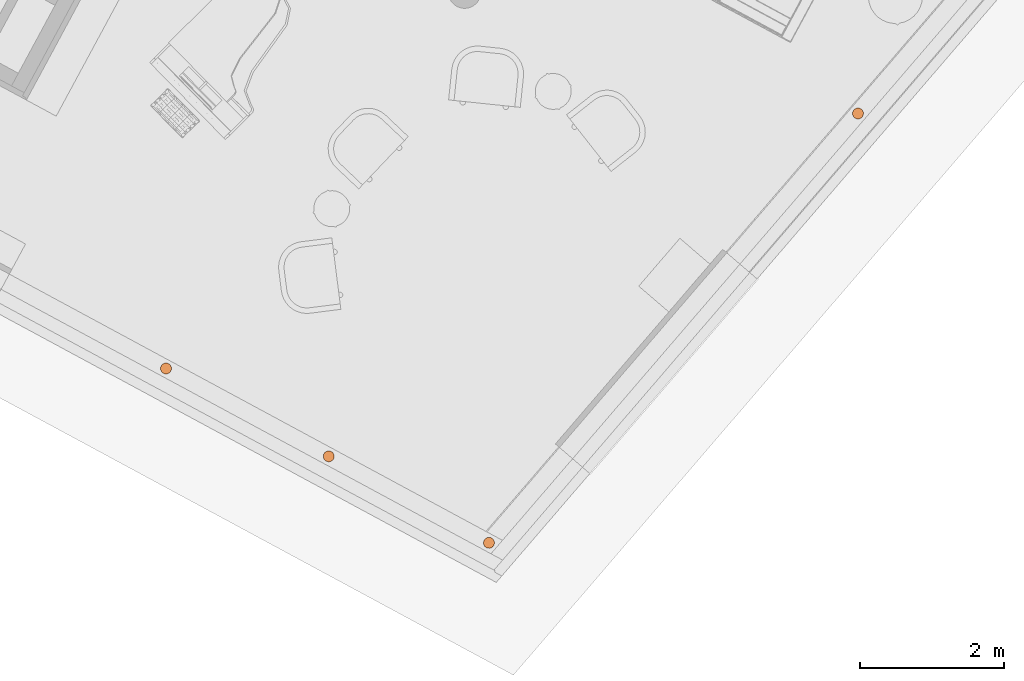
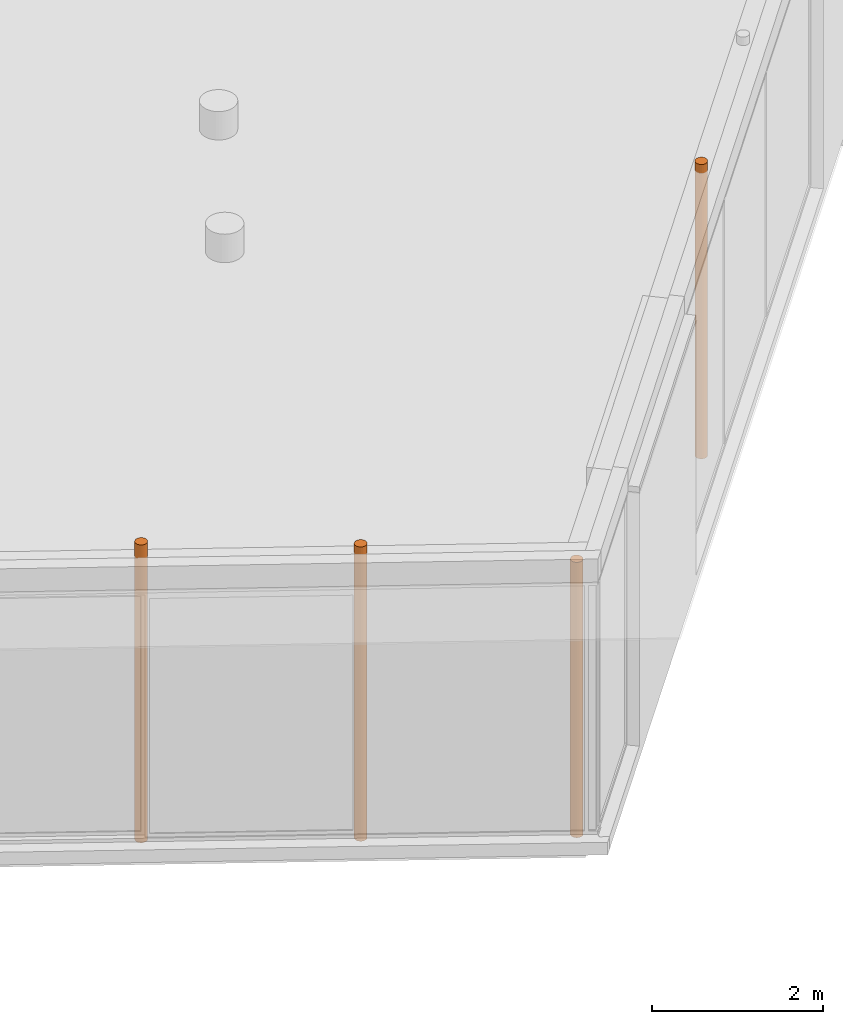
# One storey, part 46 of 52: 4 proxies.
"""IFC2X3 building model written with IfcOpenShell, lengths in metres."""

from ifc_helpers import new_model, entity, si_unit, converted_unit, derived_unit, money_unit, direction, frame, origin_with_axes, place, context, subcontext, project, spatial, faceted_brep, material, type_object, element, save


model = new_model("IFC2X3")

# Units and contexts
model_context = context("Model", 3, precision=1e-05, world=origin_with_axes(), true_north=direction((0.0, 1.0)))
body_context = subcontext(model_context, "Body", "Model", "MODEL_VIEW")
ifc_project = project(units=[si_unit("LENGTHUNIT", "METRE"), si_unit("AREAUNIT", "SQUARE_METRE"), si_unit("VOLUMEUNIT", "CUBIC_METRE"), converted_unit("PLANEANGLEUNIT", "DEGREE", entity("IfcPlaneAngleMeasure", 0.0174532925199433), si_unit("PLANEANGLEUNIT", "RADIAN"), dimensions=[0, 0, 0, 0, 0, 0, 0]), money_unit("EUR"), converted_unit("TIMEUNIT", "Year", entity("IfcTimeMeasure", 31556926.0), si_unit("TIMEUNIT", "SECOND"), dimensions=[0, 0, 1, 0, 0, 0, 0]), si_unit("MASSUNIT", "GRAM", prefix="KILO"), si_unit("THERMODYNAMICTEMPERATUREUNIT", "DEGREE_CELSIUS"), si_unit("LUMINOUSINTENSITYUNIT", "LUMEN"), si_unit("ENERGYUNIT", "JOULE", prefix="MEGA"), derived_unit("THERMALCONDUCTANCEUNIT", [(si_unit("POWERUNIT", "WATT"), 1), (si_unit("LENGTHUNIT", "METRE"), -1), (si_unit("THERMODYNAMICTEMPERATUREUNIT", "KELVIN"), -1)]), derived_unit("SPECIFICHEATCAPACITYUNIT", [(si_unit("ENERGYUNIT", "JOULE"), 1), (si_unit("MASSUNIT", "GRAM", prefix="KILO"), -1), (si_unit("THERMODYNAMICTEMPERATUREUNIT", "KELVIN"), -1)]), derived_unit("MASSDENSITYUNIT", [(si_unit("MASSUNIT", "GRAM", prefix="KILO"), 1), (si_unit("VOLUMEUNIT", "CUBIC_METRE"), -1)])], contexts=[model_context])

# Site, building, storey
site_placement = place(None, frame((-3.949935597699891, 1.740105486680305, 0.0), z_axis=(0.0, 0.0, 1.0), x_axis=(0.8799804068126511, -0.475009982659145, 0.0)))
site = spatial("IfcSite", under=ifc_project, at=site_placement, Name="Gelände", CompositionType="ELEMENT")
building_placement = place(site_placement, origin_with_axes())
building = spatial("IfcBuilding", under=site, at=building_placement, Name="Gebäude", CompositionType="ELEMENT")
storey_placement = place(building_placement, origin_with_axes())
storey = spatial("IfcBuildingStorey", under=building, at=storey_placement, Name="Erdgeschoss", CompositionType="ELEMENT", Elevation=0.0)

# Proxies
ifc_material_1 = material(Name="Metall, Edelstahl")
building_element_proxy_type_1 = type_object("IfcBuildingElementProxyType", Name="Metall, Edelstahl D152", PredefinedType="NOTDEFINED")
proxy_1_placement = place(storey_placement, frame((28.44198971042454, 8.022063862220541, -0.1800000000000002), z_axis=(0.0, 0.0, 1.0), x_axis=(0.9769696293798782, -0.2133784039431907, 0.0)))
element("IfcBuildingElementProxy", 1, at=proxy_1_placement, inside=storey, type_object=building_element_proxy_type_1, material=ifc_material_1, Name="Stütze-003", context=body_context, shape_type="Brep", body=[
    faceted_brep([(-0.07600000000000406, 0.0, 4.200000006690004), (-0.07600000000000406, 0.0, 0.0), (-0.07228029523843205, -0.02348529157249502, 0.0), (-0.07228029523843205, -0.02348529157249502, 4.200000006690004), (-0.0722802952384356, 0.02348529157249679, 4.200000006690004), (-0.0722802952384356, 0.02348529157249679, 0.0), (-0.06148529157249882, 0.04467167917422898, 0.0), (-0.04467167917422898, 0.06148529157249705, 0.0), (-0.02348529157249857, 0.07228029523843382, 0.0), (0.0, 0.07600000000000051, 0.0), (0.02348529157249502, 0.07228029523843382, 0.0), (0.04467167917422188, 0.06148529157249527, 0.0), (0.06148529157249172, 0.04467167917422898, 0.0), (0.0722802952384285, 0.02348529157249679, 0.0), (0.07600000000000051, 0.0, 0.0), (0.0722802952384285, -0.02348529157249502, 0.0), (0.06148529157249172, -0.04467167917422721, 0.0), (0.04467167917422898, -0.06148529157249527, 0.0), (0.02348529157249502, -0.07228029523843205, 0.0), (0.0, -0.07600000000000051, 0.0), (-0.02348529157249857, -0.07228029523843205, 0.0), (-0.04467167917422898, -0.06148529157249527, 0.0), (-0.06148529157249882, -0.04467167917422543, 0.0), (-0.06148529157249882, -0.04467167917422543, 4.200000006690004), (-0.04467167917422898, -0.06148529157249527, 4.200000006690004), (-0.02348529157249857, -0.07228029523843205, 4.200000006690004), (0.0, -0.07600000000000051, 4.200000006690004), (0.02348529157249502, -0.07228029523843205, 4.200000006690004), (0.04467167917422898, -0.06148529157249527, 4.200000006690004), (0.06148529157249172, -0.04467167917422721, 4.200000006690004), (0.0722802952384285, -0.02348529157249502, 4.200000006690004), (0.07600000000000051, 0.0, 4.200000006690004), (0.0722802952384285, 0.02348529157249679, 4.200000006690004), (0.06148529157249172, 0.04467167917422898, 4.200000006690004), (0.04467167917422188, 0.06148529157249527, 4.200000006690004), (0.02348529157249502, 0.07228029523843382, 4.200000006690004), (0.0, 0.07600000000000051, 4.200000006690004), (-0.02348529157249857, 0.07228029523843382, 4.200000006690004), (-0.04467167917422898, 0.06148529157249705, 4.200000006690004), (-0.06148529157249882, 0.04467167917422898, 4.200000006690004)], [[[0, 1, 2, 3]], [[4, 5, 1, 0]], [[2, 1, 5, 6, 7, 8, 9, 10, 11, 12, 13, 14, 15, 16, 17, 18, 19, 20, 21, 22]], [[3, 2, 22, 23]], [[4, 0, 3, 23, 24, 25, 26, 27, 28, 29, 30, 31, 32, 33, 34, 35, 36, 37, 38, 39]], [[39, 6, 5, 4]], [[38, 7, 6, 39]], [[37, 8, 7, 38]], [[36, 9, 8, 37]], [[35, 10, 9, 36]], [[34, 11, 10, 35]], [[33, 12, 11, 34]], [[32, 13, 12, 33]], [[31, 14, 13, 32]], [[30, 15, 14, 31]], [[29, 16, 15, 30]], [[28, 17, 16, 29]], [[27, 18, 17, 28]], [[26, 19, 18, 27]], [[25, 20, 19, 26]], [[24, 21, 20, 25]], [[23, 22, 21, 24]]]),
])
ifc_material_2 = material(Name="Metall, Edelstahl-Stütze")
building_element_proxy_type_2 = type_object("IfcBuildingElementProxyType", Name="Metall, Edelstahl-Stütze D152", PredefinedType="NOTDEFINED")
proxy_2_placement = place(storey_placement, frame((21.67152759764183, 0.3450001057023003, -0.1499999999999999), z_axis=(0.0, 0.0, 1.0), x_axis=(1.0, 0.0, 0.0)))
element("IfcBuildingElementProxy", 2, at=proxy_2_placement, inside=storey, type_object=building_element_proxy_type_2, material=ifc_material_2, Name="Stütze-003", context=body_context, shape_type="Brep", body=[
    faceted_brep([(-0.07600000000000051, 0.0, 4.250000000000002), (-0.07600000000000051, 0.0, 0.0), (-0.07228029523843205, -0.02348529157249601, 0.0), (-0.07228029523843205, -0.02348529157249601, 4.250000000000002), (-0.07228029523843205, 0.02348529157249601, 4.250000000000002), (-0.07228029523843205, 0.02348529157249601, 0.0), (-0.06148529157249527, 0.04467167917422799, 0.0), (-0.04467167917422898, 0.06148529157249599, 0.0), (-0.02348529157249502, 0.07228029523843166, 0.0), (0.0, 0.07600000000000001, 0.0), (0.02348529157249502, 0.07228029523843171, 0.0), (0.04467167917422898, 0.06148529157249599, 0.0), (0.06148529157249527, 0.04467167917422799, 0.0), (0.07228029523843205, 0.02348529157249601, 0.0), (0.07600000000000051, 0.0, 0.0), (0.07228029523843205, -0.02348529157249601, 0.0), (0.06148529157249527, -0.04467167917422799, 0.0), (0.04467167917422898, -0.06148529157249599, 0.0), (0.02348529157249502, -0.07228029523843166, 0.0), (0.0, -0.07600000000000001, 0.0), (-0.02348529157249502, -0.07228029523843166, 0.0), (-0.04467167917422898, -0.06148529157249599, 0.0), (-0.06148529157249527, -0.04467167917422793, 0.0), (-0.06148529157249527, -0.04467167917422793, 4.250000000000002), (-0.04467167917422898, -0.06148529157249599, 4.250000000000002), (-0.02348529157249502, -0.07228029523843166, 4.250000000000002), (0.0, -0.07600000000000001, 4.250000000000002), (0.02348529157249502, -0.07228029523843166, 4.250000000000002), (0.04467167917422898, -0.06148529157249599, 4.250000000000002), (0.06148529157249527, -0.04467167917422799, 4.250000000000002), (0.07228029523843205, -0.02348529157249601, 4.250000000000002), (0.07600000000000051, 0.0, 4.250000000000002), (0.07228029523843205, 0.02348529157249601, 4.250000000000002), (0.06148529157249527, 0.04467167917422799, 4.250000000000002), (0.04467167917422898, 0.06148529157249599, 4.250000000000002), (0.02348529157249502, 0.07228029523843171, 4.250000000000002), (0.0, 0.07600000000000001, 4.250000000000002), (-0.02348529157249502, 0.07228029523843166, 4.250000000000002), (-0.04467167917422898, 0.06148529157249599, 4.250000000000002), (-0.06148529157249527, 0.04467167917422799, 4.250000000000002)], [[[0, 1, 2, 3]], [[4, 5, 1, 0]], [[2, 1, 5, 6, 7, 8, 9, 10, 11, 12, 13, 14, 15, 16, 17, 18, 19, 20, 21, 22]], [[3, 2, 22, 23]], [[4, 0, 3, 23, 24, 25, 26, 27, 28, 29, 30, 31, 32, 33, 34, 35, 36, 37, 38, 39]], [[39, 6, 5, 4]], [[38, 7, 6, 39]], [[37, 8, 7, 38]], [[36, 9, 8, 37]], [[35, 10, 9, 36]], [[34, 11, 10, 35]], [[33, 12, 11, 34]], [[32, 13, 12, 33]], [[31, 14, 13, 32]], [[30, 15, 14, 31]], [[29, 16, 15, 30]], [[28, 17, 16, 29]], [[27, 18, 17, 28]], [[26, 19, 18, 27]], [[25, 20, 19, 26]], [[24, 21, 20, 25]], [[23, 22, 21, 24]]]),
])
proxy_3_placement = place(storey_placement, frame((24.23819426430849, 0.3450001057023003, -0.1800000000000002), z_axis=(0.0, 0.0, 1.0), x_axis=(1.0, 0.0, 0.0)))
element("IfcBuildingElementProxy", 3, at=proxy_3_placement, inside=storey, type_object=building_element_proxy_type_2, material=ifc_material_2, Name="Stütze-003", context=body_context, shape_type="Brep", body=[
    faceted_brep([(-0.07600000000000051, 0.0, 4.199999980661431), (-0.07600000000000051, 0.0, 0.0), (-0.07228029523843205, -0.02348529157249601, 0.0), (-0.07228029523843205, -0.02348529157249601, 4.199999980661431), (-0.07228029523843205, 0.02348529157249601, 4.199999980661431), (-0.07228029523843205, 0.02348529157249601, 0.0), (-0.06148529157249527, 0.04467167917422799, 0.0), (-0.04467167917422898, 0.06148529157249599, 0.0), (-0.02348529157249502, 0.07228029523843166, 0.0), (0.0, 0.07600000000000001, 0.0), (0.02348529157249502, 0.07228029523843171, 0.0), (0.04467167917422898, 0.06148529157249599, 0.0), (0.06148529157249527, 0.04467167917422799, 0.0), (0.07228029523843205, 0.02348529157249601, 0.0), (0.07600000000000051, 0.0, 0.0), (0.07228029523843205, -0.02348529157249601, 0.0), (0.06148529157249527, -0.04467167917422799, 0.0), (0.04467167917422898, -0.06148529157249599, 0.0), (0.02348529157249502, -0.07228029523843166, 0.0), (0.0, -0.07600000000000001, 0.0), (-0.02348529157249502, -0.07228029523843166, 0.0), (-0.04467167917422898, -0.06148529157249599, 0.0), (-0.06148529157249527, -0.04467167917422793, 0.0), (-0.06148529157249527, -0.04467167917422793, 4.199999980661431), (-0.04467167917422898, -0.06148529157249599, 4.199999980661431), (-0.02348529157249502, -0.07228029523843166, 4.199999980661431), (0.0, -0.07600000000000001, 4.199999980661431), (0.02348529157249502, -0.07228029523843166, 4.199999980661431), (0.04467167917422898, -0.06148529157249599, 4.199999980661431), (0.06148529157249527, -0.04467167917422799, 4.199999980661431), (0.07228029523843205, -0.02348529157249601, 4.199999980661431), (0.07600000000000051, 0.0, 4.199999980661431), (0.07228029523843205, 0.02348529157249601, 4.199999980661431), (0.06148529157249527, 0.04467167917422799, 4.199999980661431), (0.04467167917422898, 0.06148529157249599, 4.199999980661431), (0.02348529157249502, 0.07228029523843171, 4.199999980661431), (0.0, 0.07600000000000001, 4.199999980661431), (-0.02348529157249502, 0.07228029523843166, 4.199999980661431), (-0.04467167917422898, 0.06148529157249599, 4.199999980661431), (-0.06148529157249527, 0.04467167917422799, 4.199999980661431)], [[[0, 1, 2, 3]], [[4, 5, 1, 0]], [[2, 1, 5, 6, 7, 8, 9, 10, 11, 12, 13, 14, 15, 16, 17, 18, 19, 20, 21, 22]], [[3, 2, 22, 23]], [[4, 0, 3, 23, 24, 25, 26, 27, 28, 29, 30, 31, 32, 33, 34, 35, 36, 37, 38, 39]], [[39, 6, 5, 4]], [[38, 7, 6, 39]], [[37, 8, 7, 38]], [[36, 9, 8, 37]], [[35, 10, 9, 36]], [[34, 11, 10, 35]], [[33, 12, 11, 34]], [[32, 13, 12, 33]], [[31, 14, 13, 32]], [[30, 15, 14, 31]], [[29, 16, 15, 30]], [[28, 17, 16, 29]], [[27, 18, 17, 28]], [[26, 19, 18, 27]], [[25, 20, 19, 26]], [[24, 21, 20, 25]], [[23, 22, 21, 24]]]),
])
proxy_4_placement = place(storey_placement, frame((26.76525426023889, 0.3450001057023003, -0.1800000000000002), z_axis=(0.0, 0.0, 1.0), x_axis=(1.0, 0.0, 0.0)))
element("IfcBuildingElementProxy", 4, at=proxy_4_placement, inside=storey, type_object=building_element_proxy_type_2, material=ifc_material_2, Name="Stütze-003", context=body_context, shape_type="Brep", body=[
    faceted_brep([(-0.07600000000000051, 0.0, 3.93), (-0.07600000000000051, 0.0, 0.0), (-0.07228029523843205, -0.02348529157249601, 0.0), (-0.07228029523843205, -0.02348529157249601, 3.93), (-0.07228029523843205, 0.02348529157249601, 3.93), (-0.07228029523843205, 0.02348529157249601, 0.0), (-0.06148529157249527, 0.04467167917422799, 0.0), (-0.04467167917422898, 0.06148529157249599, 0.0), (-0.02348529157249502, 0.07228029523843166, 0.0), (0.0, 0.07600000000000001, 0.0), (0.02348529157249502, 0.07228029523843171, 0.0), (0.04467167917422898, 0.06148529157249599, 0.0), (0.06148529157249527, 0.04467167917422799, 0.0), (0.07228029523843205, 0.02348529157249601, 0.0), (0.07600000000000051, 0.0, 0.0), (0.07228029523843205, -0.02348529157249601, 0.0), (0.06148529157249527, -0.04467167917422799, 0.0), (0.04467167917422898, -0.06148529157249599, 0.0), (0.02348529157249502, -0.07228029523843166, 0.0), (0.0, -0.07600000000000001, 0.0), (-0.02348529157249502, -0.07228029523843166, 0.0), (-0.04467167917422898, -0.06148529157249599, 0.0), (-0.06148529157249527, -0.04467167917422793, 0.0), (-0.06148529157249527, -0.04467167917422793, 3.93), (-0.04467167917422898, -0.06148529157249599, 3.93), (-0.02348529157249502, -0.07228029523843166, 3.93), (0.0, -0.07600000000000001, 3.93), (0.02348529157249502, -0.07228029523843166, 3.93), (0.04467167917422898, -0.06148529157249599, 3.93), (0.06148529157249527, -0.04467167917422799, 3.93), (0.07228029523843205, -0.02348529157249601, 3.93), (0.07600000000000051, 0.0, 3.93), (0.07228029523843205, 0.02348529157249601, 3.93), (0.06148529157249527, 0.04467167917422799, 3.93), (0.04467167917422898, 0.06148529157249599, 3.93), (0.02348529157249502, 0.07228029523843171, 3.93), (0.0, 0.07600000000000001, 3.93), (-0.02348529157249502, 0.07228029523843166, 3.93), (-0.04467167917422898, 0.06148529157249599, 3.93), (-0.06148529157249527, 0.04467167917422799, 3.93)], [[[0, 1, 2, 3]], [[4, 5, 1, 0]], [[2, 1, 5, 6, 7, 8, 9, 10, 11, 12, 13, 14, 15, 16, 17, 18, 19, 20, 21, 22]], [[3, 2, 22, 23]], [[4, 0, 3, 23, 24, 25, 26, 27, 28, 29, 30, 31, 32, 33, 34, 35, 36, 37, 38, 39]], [[39, 6, 5, 4]], [[38, 7, 6, 39]], [[37, 8, 7, 38]], [[36, 9, 8, 37]], [[35, 10, 9, 36]], [[34, 11, 10, 35]], [[33, 12, 11, 34]], [[32, 13, 12, 33]], [[31, 14, 13, 32]], [[30, 15, 14, 31]], [[29, 16, 15, 30]], [[28, 17, 16, 29]], [[27, 18, 17, 28]], [[26, 19, 18, 27]], [[25, 20, 19, 26]], [[24, 21, 20, 25]], [[23, 22, 21, 24]]]),
])

save(model, "model.ifc")
